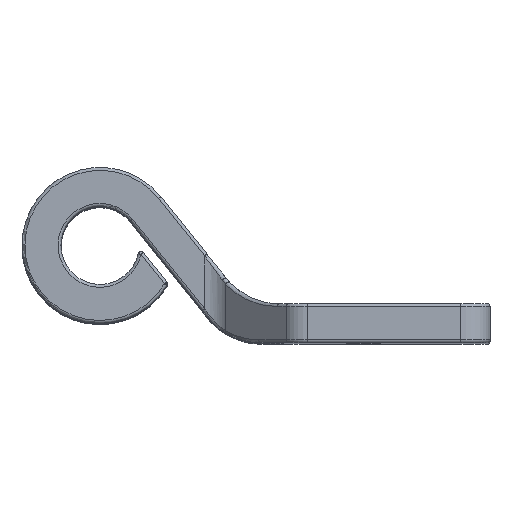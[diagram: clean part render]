
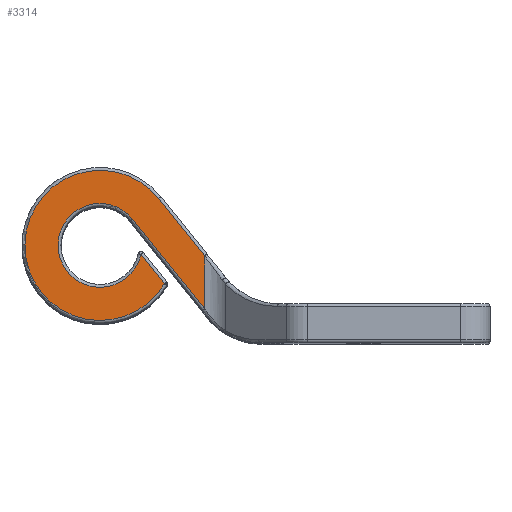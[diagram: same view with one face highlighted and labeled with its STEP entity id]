
A CAD part, top view. The second image highlights one B-rep face of the part: STEP entity #3314.
In plain terms, the highlighted planar face has unit normal (0, 0, 1).
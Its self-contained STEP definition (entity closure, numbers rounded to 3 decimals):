
#86 = CARTESIAN_POINT ( 'NONE',  ( 3.354, 2.691, 87.75 ) ) ;
#107 = VERTEX_POINT ( 'NONE', #4011 ) ;
#342 = VERTEX_POINT ( 'NONE', #1797 ) ;
#474 = ORIENTED_EDGE ( 'NONE', *, *, #2210, .T. ) ;
#838 = VECTOR ( 'NONE', #980, 1000. ) ;
#912 = CARTESIAN_POINT ( 'NONE',  ( 6.006, 4.819, 87.75 ) ) ;
#980 = DIRECTION ( 'NONE',  ( -0.626, 0.78, 0. ) ) ;
#1064 = VERTEX_POINT ( 'NONE', #5592 ) ;
#1092 = DIRECTION ( 'NONE',  ( 1., 0., 0. ) ) ;
#1131 = DIRECTION ( 'NONE',  ( 0.626, -0.78, 0. ) ) ;
#1191 = VECTOR ( 'NONE', #3835, 1000. ) ;
#1276 = CIRCLE ( 'NONE', #3675, 4.3 ) ;
#1393 = VERTEX_POINT ( 'NONE', #5921 ) ;
#1395 = DIRECTION ( 'NONE',  ( -0.626, 0.78, 0. ) ) ;
#1544 = ORIENTED_EDGE ( 'NONE', *, *, #3268, .T. ) ;
#1686 = EDGE_CURVE ( 'NONE', #1393, #1064, #4686, .T. ) ;
#1715 = FACE_OUTER_BOUND ( 'NONE', #3515, .T. ) ;
#1797 = CARTESIAN_POINT ( 'NONE',  ( 6.006, 4.819, 87.75 ) ) ;
#1905 = AXIS2_PLACEMENT_3D ( 'NONE', #2015, #5394, #2500 ) ;
#1910 = CARTESIAN_POINT ( 'NONE',  ( 10.73, -2.173, 87.75 ) ) ;
#2015 = CARTESIAN_POINT ( 'NONE',  ( 0., 0., 87.75 ) ) ;
#2033 = CARTESIAN_POINT ( 'NONE',  ( -15., 105., 87.75 ) ) ;
#2081 = ORIENTED_EDGE ( 'NONE', *, *, #1686, .T. ) ;
#2210 = EDGE_CURVE ( 'NONE', #1064, #3942, #1276, .T. ) ;
#2390 = ORIENTED_EDGE ( 'NONE', *, *, #3366, .T. ) ;
#2500 = DIRECTION ( 'NONE',  ( 1., 0., 0. ) ) ;
#2630 = VECTOR ( 'NONE', #1131, 1000. ) ;
#2777 = LINE ( 'NONE', #4473, #2630 ) ;
#2822 = CARTESIAN_POINT ( 'NONE',  ( 0., 0., 87.75 ) ) ;
#2896 = ORIENTED_EDGE ( 'NONE', *, *, #3138, .T. ) ;
#3001 = PLANE ( 'NONE',  #4161 ) ;
#3011 = VECTOR ( 'NONE', #1395, 1000. ) ;
#3138 = EDGE_CURVE ( 'NONE', #3428, #107, #5049, .T. ) ;
#3152 = CIRCLE ( 'NONE', #1905, 7.7 ) ;
#3268 = EDGE_CURVE ( 'NONE', #342, #1393, #3152, .T. ) ;
#3310 = DIRECTION ( 'NONE',  ( 1., 0., 0. ) ) ;
#3314 = ADVANCED_FACE ( 'NONE', ( #1715 ), #3001, .T. ) ;
#3347 = ORIENTED_EDGE ( 'NONE', *, *, #4050, .T. ) ;
#3366 = EDGE_CURVE ( 'NONE', #107, #342, #5272, .T. ) ;
#3428 = VERTEX_POINT ( 'NONE', #5789 ) ;
#3515 = EDGE_LOOP ( 'NONE', ( #2896, #2390, #1544, #2081, #474, #3347 ) ) ;
#3675 = AXIS2_PLACEMENT_3D ( 'NONE', #2822, #6198, #3310 ) ;
#3835 = DIRECTION ( 'NONE',  ( 0., 1., 0. ) ) ;
#3942 = VERTEX_POINT ( 'NONE', #86 ) ;
#3982 = DIRECTION ( 'NONE',  ( 0., 0., 1. ) ) ;
#4011 = CARTESIAN_POINT ( 'NONE',  ( 10.73, -1.07, 87.75 ) ) ;
#4050 = EDGE_CURVE ( 'NONE', #3942, #3428, #2777, .T. ) ;
#4161 = AXIS2_PLACEMENT_3D ( 'NONE', #2033, #3982, #1092 ) ;
#4473 = CARTESIAN_POINT ( 'NONE',  ( 10.964, -6.795, 87.75 ) ) ;
#4686 = LINE ( 'NONE', #5791, #838 ) ;
#5049 = LINE ( 'NONE', #1910, #1191 ) ;
#5272 = LINE ( 'NONE', #912, #3011 ) ;
#5394 = DIRECTION ( 'NONE',  ( 0., 0., 1. ) ) ;
#5592 = CARTESIAN_POINT ( 'NONE',  ( 4.2, -0.921, 87.75 ) ) ;
#5789 = CARTESIAN_POINT ( 'NONE',  ( 10.73, -6.503, 87.75 ) ) ;
#5791 = CARTESIAN_POINT ( 'NONE',  ( 3.762, -0.374, 87.75 ) ) ;
#5921 = CARTESIAN_POINT ( 'NONE',  ( 6.619, -3.935, 87.75 ) ) ;
#6198 = DIRECTION ( 'NONE',  ( 0., 0., -1. ) ) ;
